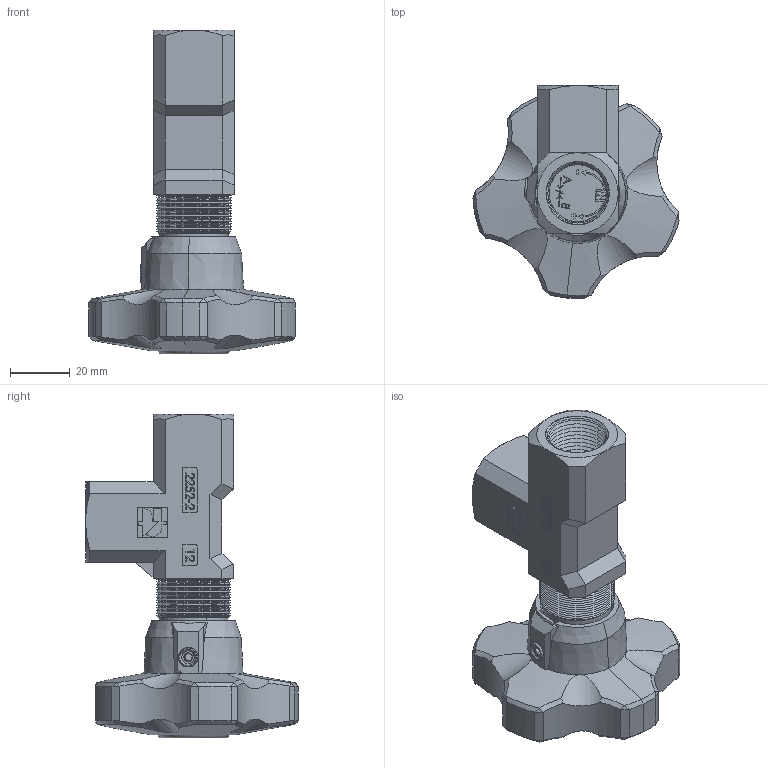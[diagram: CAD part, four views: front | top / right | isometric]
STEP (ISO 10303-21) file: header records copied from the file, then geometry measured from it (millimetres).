
FILE_DESCRIPTION (( 'STEP AP214' ), '1' );
FILE_NAME ('2252-2-12 VOLANTINO ABS F-F.STEP', '2015-05-19T15:20:04', ( '' ), ( '' ), 'SwSTEP 2.0', 'SolidWorks 2014', '' );
FILE_SCHEMA (( 'AUTOMOTIVE_DESIGN' ));
Length unit declared in the file: millimetre
Products named in the file (1): 2252-2-12 VOLANTINO ABS F-F
Bounding box: 68.76 x 71 x 108 mm (x, y, z)
Surface area: 25070 mm2 (no closed solid volume)
Topology: 0 solids, 23 shells, 533 faces, 1879 edges, 1298 vertices
Faces by surface type: plane 238, cone 167, cylinder 73, bspline 53, torus 2
Entity records: 32724 total; most frequent: CARTESIAN_POINT 11590, ORIENTED_EDGE 2964, DIRECTION 2946, EDGE_CURVE 1879, VERTEX_POINT 1298, VECTOR 1112, LINE 1112, AXIS2_PLACEMENT_3D 917
